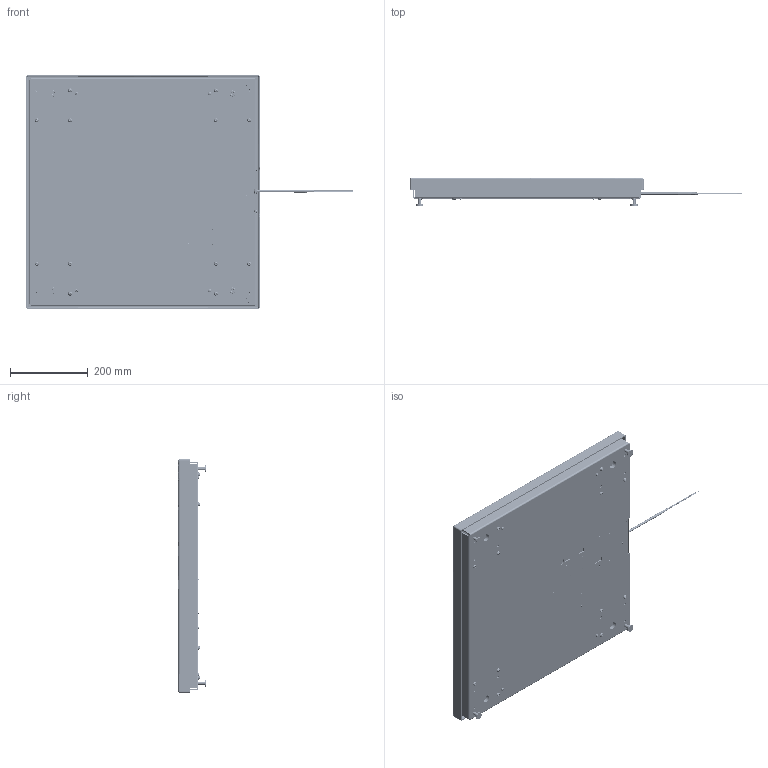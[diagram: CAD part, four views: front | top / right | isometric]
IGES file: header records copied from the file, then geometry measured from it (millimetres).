
Start section: SolidWorks IGES file using analytic representation for surfaces
Global section: file name: C:\0_Work\SolidWorks\~0_E-Scales\24x24\HI2424SBU-1.3K.IGS; native system: SolidWorks 2017; preprocessor: SolidWorks 2017; author: vach01; date: 190813.153656; units: millimetre
Bounding box: 852.36 x 71.16 x 600 mm (x, y, z)
Surface area: 2008618.6 mm2 (no closed solid volume)
Topology: 0 solids, 0 shells, 9584 faces, 85922 edges, 85828 vertices
Faces by surface type: bspline 7124, revolution 2460
